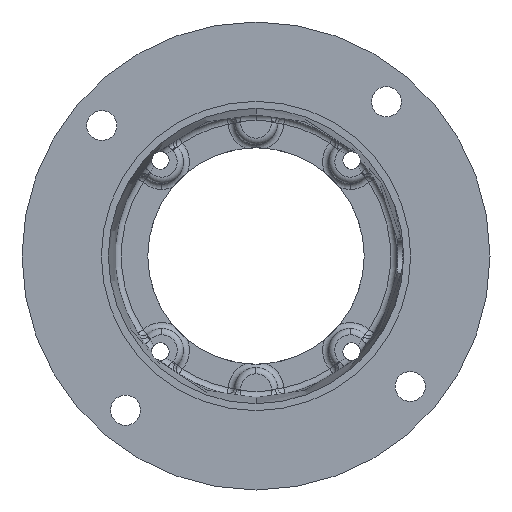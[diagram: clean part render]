
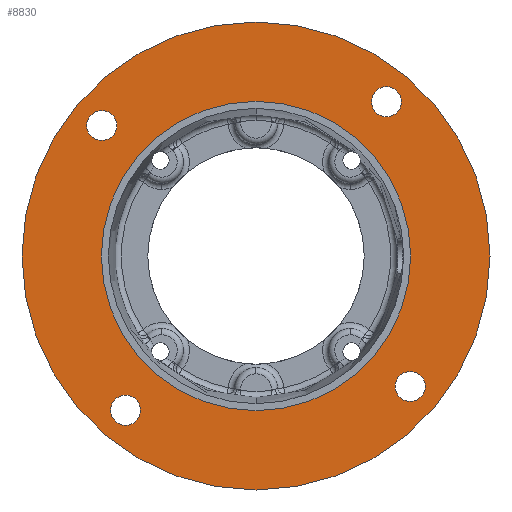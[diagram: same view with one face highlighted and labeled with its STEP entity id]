
A CAD part, front view. The second image highlights one B-rep face of the part: STEP entity #8830.
In plain terms, the highlighted planar face has unit normal (0, -1, 0).
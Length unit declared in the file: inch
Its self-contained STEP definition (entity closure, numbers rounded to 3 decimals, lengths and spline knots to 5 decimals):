
#30 = DIRECTION ( 'NONE',  ( 0., -1., 0. ) ) ;
#274 = ORIENTED_EDGE ( 'NONE', *, *, #1152, .F. ) ;
#335 = CARTESIAN_POINT ( 'NONE',  ( 0., 0.103, -2.2505 ) ) ;
#529 = DIRECTION ( 'NONE',  ( 0., -1., 0. ) ) ;
#589 = FACE_BOUND ( 'NONE', #905, .T. ) ;
#640 = EDGE_CURVE ( 'NONE', #7781, #1990, #749, .T. ) ;
#749 = CIRCLE ( 'NONE', #4270, 0.21875 ) ;
#757 = CIRCLE ( 'NONE', #7201, 0.21875 ) ;
#765 = CIRCLE ( 'NONE', #5002, 2.2505 ) ;
#905 = EDGE_LOOP ( 'NONE', ( #7689, #5725 ) ) ;
#1022 = VERTEX_POINT ( 'NONE', #8192 ) ;
#1152 = EDGE_CURVE ( 'NONE', #1022, #5857, #7677, .T. ) ;
#1419 = VERTEX_POINT ( 'NONE', #3414 ) ;
#1592 = AXIS2_PLACEMENT_3D ( 'NONE', #2207, #6996, #2913 ) ;
#1649 = DIRECTION ( 'NONE',  ( 0., -1., 0. ) ) ;
#1990 = VERTEX_POINT ( 'NONE', #6650 ) ;
#2168 = FACE_OUTER_BOUND ( 'NONE', #8511, .T. ) ;
#2207 = CARTESIAN_POINT ( 'NONE',  ( -2.24475, 0.103, 1.89861 ) ) ;
#2212 = CARTESIAN_POINT ( 'NONE',  ( 0., 0.103, 2.2505 ) ) ;
#2267 = ORIENTED_EDGE ( 'NONE', *, *, #8555, .T. ) ;
#2278 = CARTESIAN_POINT ( 'NONE',  ( 0., 0.103, -3.405 ) ) ;
#2461 = EDGE_CURVE ( 'NONE', #4108, #3813, #765, .T. ) ;
#2492 = PLANE ( 'NONE',  #4577 ) ;
#2508 = CARTESIAN_POINT ( 'NONE',  ( 0., 0.103, 0. ) ) ;
#2902 = CARTESIAN_POINT ( 'NONE',  ( 1.89861, 0.103, 2.24475 ) ) ;
#2913 = DIRECTION ( 'NONE',  ( 0., 0., -1. ) ) ;
#2949 = CARTESIAN_POINT ( 'NONE',  ( -1.89861, 0.103, -2.026 ) ) ;
#3046 = EDGE_CURVE ( 'NONE', #1990, #7781, #6852, .T. ) ;
#3085 = DIRECTION ( 'NONE',  ( 0., -1., 0. ) ) ;
#3169 = ORIENTED_EDGE ( 'NONE', *, *, #4986, .F. ) ;
#3197 = DIRECTION ( 'NONE',  ( 0., 0., -1. ) ) ;
#3215 = DIRECTION ( 'NONE',  ( 0., 0., -1. ) ) ;
#3237 = ORIENTED_EDGE ( 'NONE', *, *, #5056, .T. ) ;
#3329 = ORIENTED_EDGE ( 'NONE', *, *, #640, .F. ) ;
#3337 = CARTESIAN_POINT ( 'NONE',  ( 2.24475, 0.103, -1.89861 ) ) ;
#3388 = CARTESIAN_POINT ( 'NONE',  ( 0., 0.103, 0. ) ) ;
#3414 = CARTESIAN_POINT ( 'NONE',  ( -2.24475, 0.103, 1.67986 ) ) ;
#3439 = DIRECTION ( 'NONE',  ( 0., -1., 0. ) ) ;
#3584 = EDGE_LOOP ( 'NONE', ( #7851, #3329 ) ) ;
#3587 = DIRECTION ( 'NONE',  ( 0., 0., -1. ) ) ;
#3620 = DIRECTION ( 'NONE',  ( 0., -1., 0. ) ) ;
#3636 = CIRCLE ( 'NONE', #6972, 0.21875 ) ;
#3670 = AXIS2_PLACEMENT_3D ( 'NONE', #3807, #8587, #4482 ) ;
#3681 = CIRCLE ( 'NONE', #7965, 3.405 ) ;
#3807 = CARTESIAN_POINT ( 'NONE',  ( -1.89861, 0.103, -2.24475 ) ) ;
#3813 = VERTEX_POINT ( 'NONE', #2212 ) ;
#3869 = AXIS2_PLACEMENT_3D ( 'NONE', #7718, #3620, #8405 ) ;
#3949 = CIRCLE ( 'NONE', #6148, 3.405 ) ;
#3990 = FACE_BOUND ( 'NONE', #4124, .T. ) ;
#4018 = DIRECTION ( 'NONE',  ( 0., 0., -1. ) ) ;
#4035 = VERTEX_POINT ( 'NONE', #2278 ) ;
#4083 = DIRECTION ( 'NONE',  ( 0., 0., -1. ) ) ;
#4100 = CARTESIAN_POINT ( 'NONE',  ( -1.89861, 0.103, -2.24475 ) ) ;
#4108 = VERTEX_POINT ( 'NONE', #335 ) ;
#4124 = EDGE_LOOP ( 'NONE', ( #6965, #3169 ) ) ;
#4199 = FACE_BOUND ( 'NONE', #3584, .T. ) ;
#4250 = VERTEX_POINT ( 'NONE', #8741 ) ;
#4270 = AXIS2_PLACEMENT_3D ( 'NONE', #2902, #7679, #3587 ) ;
#4288 = VERTEX_POINT ( 'NONE', #5392 ) ;
#4482 = DIRECTION ( 'NONE',  ( 0., 0., -1. ) ) ;
#4488 = ORIENTED_EDGE ( 'NONE', *, *, #5506, .F. ) ;
#4497 = VERTEX_POINT ( 'NONE', #2949 ) ;
#4504 = AXIS2_PLACEMENT_3D ( 'NONE', #4608, #529, #5302 ) ;
#4577 = AXIS2_PLACEMENT_3D ( 'NONE', #8628, #7283, #3197 ) ;
#4608 = CARTESIAN_POINT ( 'NONE',  ( 2.24475, 0.103, -1.89861 ) ) ;
#4793 = DIRECTION ( 'NONE',  ( 0., 0., -1. ) ) ;
#4986 = EDGE_CURVE ( 'NONE', #3813, #4108, #5984, .T. ) ;
#5002 = AXIS2_PLACEMENT_3D ( 'NONE', #2508, #7299, #3215 ) ;
#5056 = EDGE_CURVE ( 'NONE', #4250, #4035, #3949, .T. ) ;
#5302 = DIRECTION ( 'NONE',  ( 0., 0., -1. ) ) ;
#5356 = EDGE_LOOP ( 'NONE', ( #274, #8016 ) ) ;
#5392 = CARTESIAN_POINT ( 'NONE',  ( -2.24475, 0.103, 2.11736 ) ) ;
#5491 = CARTESIAN_POINT ( 'NONE',  ( -1.89861, 0.103, -2.4635 ) ) ;
#5506 = EDGE_CURVE ( 'NONE', #4497, #8072, #3636, .T. ) ;
#5558 = CIRCLE ( 'NONE', #1592, 0.21875 ) ;
#5650 = CARTESIAN_POINT ( 'NONE',  ( 1.89861, 0.103, 2.4635 ) ) ;
#5715 = AXIS2_PLACEMENT_3D ( 'NONE', #7175, #3085, #7863 ) ;
#5725 = ORIENTED_EDGE ( 'NONE', *, *, #5907, .F. ) ;
#5742 = CARTESIAN_POINT ( 'NONE',  ( 1.89861, 0.103, 2.24475 ) ) ;
#5804 = FACE_BOUND ( 'NONE', #8689, .T. ) ;
#5857 = VERTEX_POINT ( 'NONE', #6908 ) ;
#5907 = EDGE_CURVE ( 'NONE', #4288, #1419, #5558, .T. ) ;
#5984 = CIRCLE ( 'NONE', #3869, 2.2505 ) ;
#6069 = EDGE_CURVE ( 'NONE', #1419, #4288, #6722, .T. ) ;
#6148 = AXIS2_PLACEMENT_3D ( 'NONE', #3388, #8175, #4083 ) ;
#6429 = DIRECTION ( 'NONE',  ( 0., 0., -1. ) ) ;
#6580 = EDGE_CURVE ( 'NONE', #5857, #1022, #757, .T. ) ;
#6650 = CARTESIAN_POINT ( 'NONE',  ( 1.89861, 0.103, 2.026 ) ) ;
#6674 = CIRCLE ( 'NONE', #3670, 0.21875 ) ;
#6722 = CIRCLE ( 'NONE', #5715, 0.21875 ) ;
#6852 = CIRCLE ( 'NONE', #7860, 0.21875 ) ;
#6908 = CARTESIAN_POINT ( 'NONE',  ( 2.24475, 0.103, -1.67986 ) ) ;
#6935 = EDGE_CURVE ( 'NONE', #8072, #4497, #6674, .T. ) ;
#6965 = ORIENTED_EDGE ( 'NONE', *, *, #2461, .F. ) ;
#6972 = AXIS2_PLACEMENT_3D ( 'NONE', #4100, #30, #4793 ) ;
#6996 = DIRECTION ( 'NONE',  ( 0., -1., 0. ) ) ;
#7110 = ORIENTED_EDGE ( 'NONE', *, *, #6935, .F. ) ;
#7175 = CARTESIAN_POINT ( 'NONE',  ( -2.24475, 0.103, 1.89861 ) ) ;
#7201 = AXIS2_PLACEMENT_3D ( 'NONE', #3337, #8115, #4018 ) ;
#7283 = DIRECTION ( 'NONE',  ( 0., -1., 0. ) ) ;
#7299 = DIRECTION ( 'NONE',  ( 0., -1., 0. ) ) ;
#7534 = CARTESIAN_POINT ( 'NONE',  ( 0., 0.103, 0. ) ) ;
#7631 = FACE_BOUND ( 'NONE', #5356, .T. ) ;
#7677 = CIRCLE ( 'NONE', #4504, 0.21875 ) ;
#7679 = DIRECTION ( 'NONE',  ( 0., -1., 0. ) ) ;
#7689 = ORIENTED_EDGE ( 'NONE', *, *, #6069, .F. ) ;
#7718 = CARTESIAN_POINT ( 'NONE',  ( 0., 0.103, 0. ) ) ;
#7781 = VERTEX_POINT ( 'NONE', #5650 ) ;
#7851 = ORIENTED_EDGE ( 'NONE', *, *, #3046, .F. ) ;
#7860 = AXIS2_PLACEMENT_3D ( 'NONE', #5742, #1649, #6429 ) ;
#7863 = DIRECTION ( 'NONE',  ( 0., 0., -1. ) ) ;
#7965 = AXIS2_PLACEMENT_3D ( 'NONE', #7534, #3439, #8225 ) ;
#8016 = ORIENTED_EDGE ( 'NONE', *, *, #6580, .F. ) ;
#8072 = VERTEX_POINT ( 'NONE', #5491 ) ;
#8115 = DIRECTION ( 'NONE',  ( 0., -1., 0. ) ) ;
#8175 = DIRECTION ( 'NONE',  ( 0., -1., 0. ) ) ;
#8192 = CARTESIAN_POINT ( 'NONE',  ( 2.24475, 0.103, -2.11736 ) ) ;
#8225 = DIRECTION ( 'NONE',  ( 0., 0., -1. ) ) ;
#8405 = DIRECTION ( 'NONE',  ( 0., 0., -1. ) ) ;
#8511 = EDGE_LOOP ( 'NONE', ( #2267, #3237 ) ) ;
#8555 = EDGE_CURVE ( 'NONE', #4035, #4250, #3681, .T. ) ;
#8587 = DIRECTION ( 'NONE',  ( 0., -1., 0. ) ) ;
#8628 = CARTESIAN_POINT ( 'NONE',  ( 0., 0.103, 0. ) ) ;
#8689 = EDGE_LOOP ( 'NONE', ( #7110, #4488 ) ) ;
#8741 = CARTESIAN_POINT ( 'NONE',  ( 0., 0.103, 3.405 ) ) ;
#8830 = ADVANCED_FACE ( 'NONE', ( #4199, #589, #7631, #5804, #3990, #2168 ), #2492, .T. ) ;
